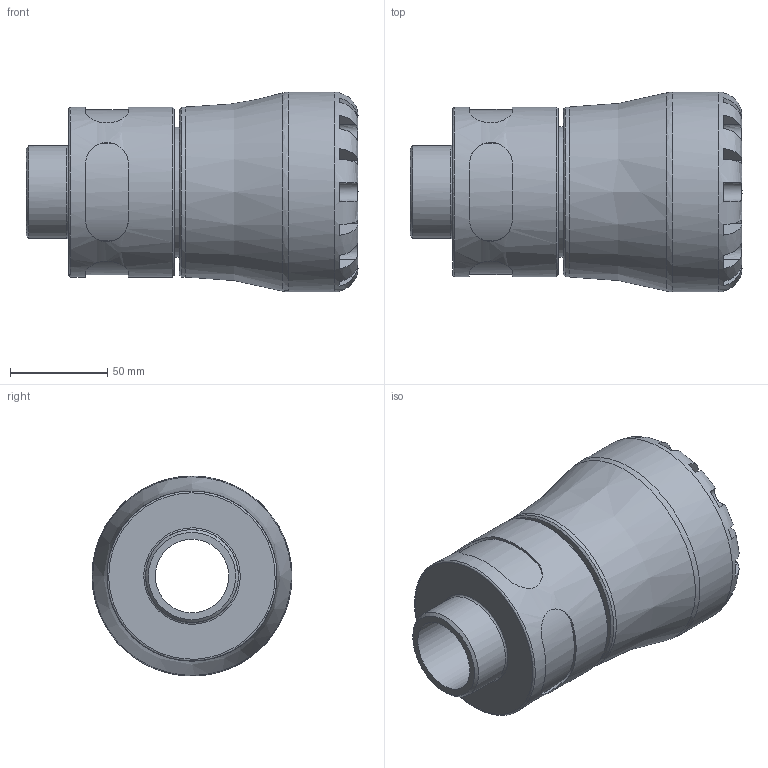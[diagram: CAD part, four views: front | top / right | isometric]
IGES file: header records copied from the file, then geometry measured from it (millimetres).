
Global section: file name: 10N200063015_10N2G0063015; native system: Autodesk Inventor 2019; preprocessor: unknown; author: KIM; date: 20240312.132008; units: millimetre
Bounding box: 171 x 103 x 102.94 mm (x, y, z)
Volume: 661058.9 mm3; surface area: 92465.5 mm2
Topology: 1 solids, 1 shells, 114 faces, 303 edges, 198 vertices
Faces by surface type: bspline 114
